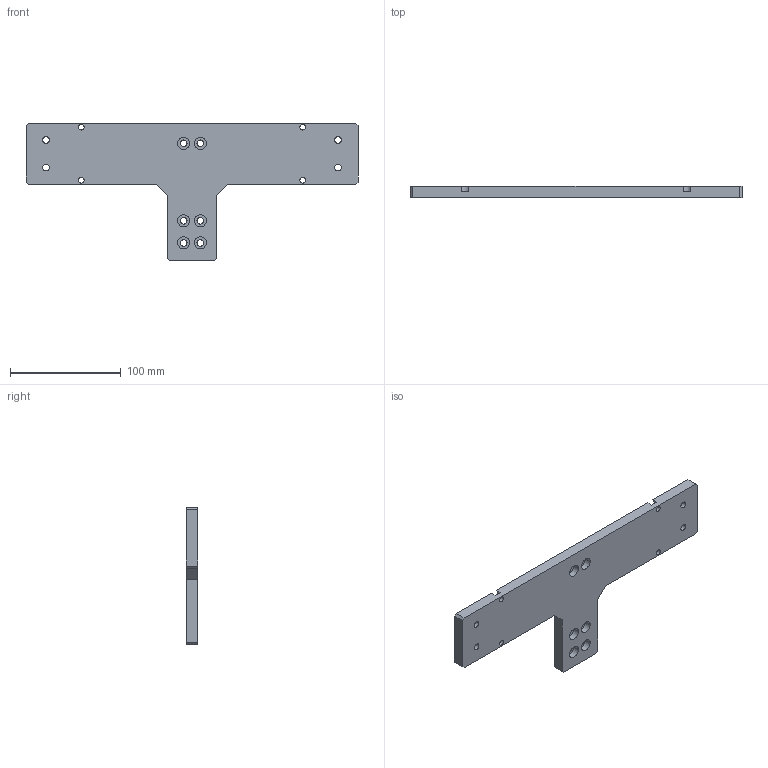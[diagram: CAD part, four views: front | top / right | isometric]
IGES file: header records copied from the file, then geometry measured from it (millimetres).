
Start section:  PTC IGES file: n46-n60l-st.igs
Global section: file name: n46-n60l-st.igs; native system: Pro/ENGINEER by Parametric Technology Corporation; preprocessor: 2008230; author: Owner; organization: Unknown; date: 20121211.161603; units: millimetre
Bounding box: 300 x 10 x 124 mm (x, y, z)
Surface area: 50425 mm2 (no closed solid volume)
Topology: 0 solids, 0 shells, 84 faces, 432 edges, 432 vertices
Faces by surface type: revolution 52, bspline 32
